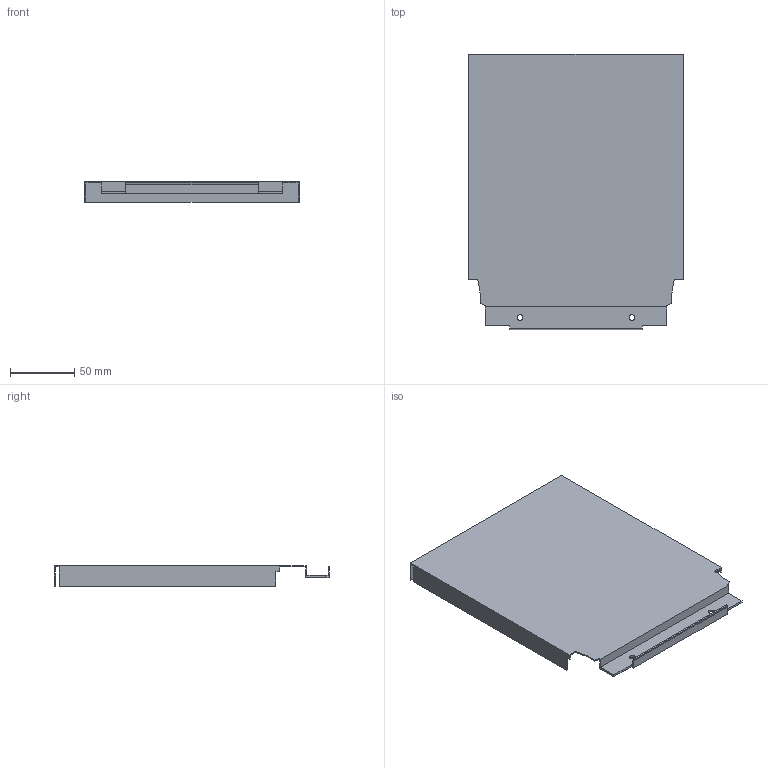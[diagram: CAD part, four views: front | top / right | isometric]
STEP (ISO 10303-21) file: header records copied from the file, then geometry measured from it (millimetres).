
FILE_DESCRIPTION (( 'STEP AP214' ), '1' );
FILE_NAME ('_DWD_XP Stahlrückwand_H214_KAB250_S16.step', '2010-07-08T13:02:45', ( 'grass' ), ( '' ), 'SwSTEP 2.0', 'SolidWorks 2010', '' );
FILE_SCHEMA (( 'AUTOMOTIVE_DESIGN' ));
Length unit declared in the file: millimetre
Products named in the file (1): _DWD_XP Stahlrückwand_H214_KAB250_S16
Bounding box: 167 x 214.58 x 16 mm (x, y, z)
Volume: 41755.8 mm3; surface area: 89524.2 mm2
Topology: 1 solids, 1 shells, 44 faces, 126 edges, 84 vertices
Faces by surface type: plane 40, cylinder 4
Entity records: 1460 total; most frequent: CARTESIAN_POINT 255, ORIENTED_EDGE 252, DIRECTION 224, EDGE_CURVE 126, LINE 118, VECTOR 118, VERTEX_POINT 84, AXIS2_PLACEMENT_3D 53
